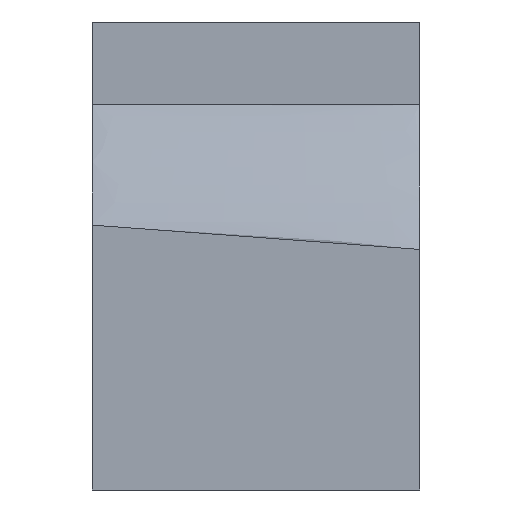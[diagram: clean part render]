
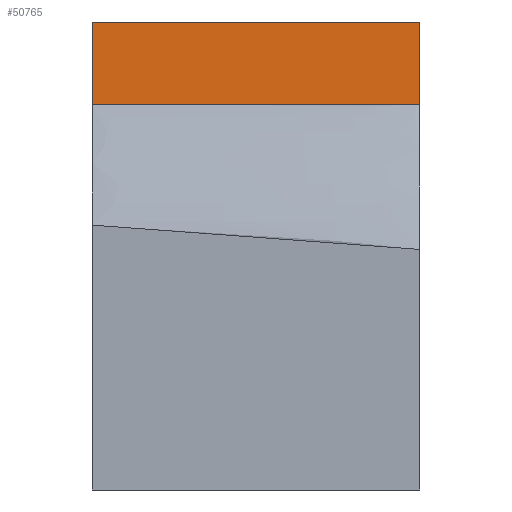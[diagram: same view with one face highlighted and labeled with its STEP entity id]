
A CAD part, front view. The second image highlights one B-rep face of the part: STEP entity #50765.
In plain terms, the highlighted planar face has unit normal (0, -1, 0).
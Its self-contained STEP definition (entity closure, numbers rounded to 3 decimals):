
#32 = PLANE('',#33);
#33 = AXIS2_PLACEMENT_3D('',#34,#35,#36);
#34 = CARTESIAN_POINT('',(30.8,22.2,5.176));
#35 = DIRECTION('',(1.,0.,-0.));
#36 = DIRECTION('',(0.,0.,1.));
#24871 = VERTEX_POINT('',#24872);
#24872 = CARTESIAN_POINT('',(30.8,-4.5,17.186));
#24886 = PLANE('',#24887);
#24887 = AXIS2_PLACEMENT_3D('',#24888,#24889,#24890);
#24888 = CARTESIAN_POINT('',(30.8,-4.5,17.186));
#24889 = DIRECTION('',(0.,0.,1.));
#24890 = DIRECTION('',(1.,0.,-0.));
#24898 = EDGE_CURVE('',#24899,#24871,#24901,.T.);
#24899 = VERTEX_POINT('',#24900);
#24900 = CARTESIAN_POINT('',(30.8,-4.5,15.076));
#24901 = SURFACE_CURVE('',#24902,(#24906,#24913),.PCURVE_S1.);
#24902 = LINE('',#24903,#24904);
#24903 = CARTESIAN_POINT('',(30.8,-4.5,14.976));
#24904 = VECTOR('',#24905,1.);
#24905 = DIRECTION('',(0.,0.,1.));
#24906 = PCURVE('',#32,#24907);
#24907 = DEFINITIONAL_REPRESENTATION('',(#24908),#24912);
#24908 = LINE('',#24909,#24910);
#24909 = CARTESIAN_POINT('',(9.8,26.7));
#24910 = VECTOR('',#24911,1.);
#24911 = DIRECTION('',(1.,0.));
#24912 = ( GEOMETRIC_REPRESENTATION_CONTEXT(2) 
PARAMETRIC_REPRESENTATION_CONTEXT() REPRESENTATION_CONTEXT('2D SPACE',''
  ) );
#24913 = PCURVE('',#24914,#24919);
#24914 = PLANE('',#24915);
#24915 = AXIS2_PLACEMENT_3D('',#24916,#24917,#24918);
#24916 = CARTESIAN_POINT('',(30.8,-4.5,14.976));
#24917 = DIRECTION('',(-0.,1.,0.));
#24918 = DIRECTION('',(0.,0.,1.));
#24919 = DEFINITIONAL_REPRESENTATION('',(#24920),#24924);
#24920 = LINE('',#24921,#24922);
#24921 = CARTESIAN_POINT('',(0.,0.));
#24922 = VECTOR('',#24923,1.);
#24923 = DIRECTION('',(1.,0.));
#24924 = ( GEOMETRIC_REPRESENTATION_CONTEXT(2) 
PARAMETRIC_REPRESENTATION_CONTEXT() REPRESENTATION_CONTEXT('2D SPACE',''
  ) );
#24942 = PLANE('',#24943);
#24943 = AXIS2_PLACEMENT_3D('',#24944,#24945,#24946);
#24944 = CARTESIAN_POINT('',(30.8,22.2,15.076));
#24945 = DIRECTION('',(0.,0.,1.));
#24946 = DIRECTION('',(1.,0.,-0.));
#49829 = PLANE('',#49830);
#49830 = AXIS2_PLACEMENT_3D('',#49831,#49832,#49833);
#49831 = CARTESIAN_POINT('',(39.2,22.2,5.176));
#49832 = DIRECTION('',(1.,0.,-0.));
#49833 = DIRECTION('',(0.,0.,1.));
#50725 = VERTEX_POINT('',#50726);
#50726 = CARTESIAN_POINT('',(39.2,-4.5,15.076));
#50747 = EDGE_CURVE('',#50725,#24899,#50748,.T.);
#50748 = SURFACE_CURVE('',#50749,(#50753,#50759),.PCURVE_S1.);
#50749 = LINE('',#50750,#50751);
#50750 = CARTESIAN_POINT('',(30.8,-4.5,15.076));
#50751 = VECTOR('',#50752,1.);
#50752 = DIRECTION('',(-1.,-0.,0.));
#50753 = PCURVE('',#24942,#50754);
#50754 = DEFINITIONAL_REPRESENTATION('',(#50755),#50758);
#50755 = B_SPLINE_CURVE_WITH_KNOTS('',1,(#50756,#50757),.UNSPECIFIED.,
  .F.,.F.,(2,2),(-8.4,0.),.PIECEWISE_BEZIER_KNOTS.);
#50756 = CARTESIAN_POINT('',(8.4,-26.7));
#50757 = CARTESIAN_POINT('',(0.,-26.7));
#50758 = ( GEOMETRIC_REPRESENTATION_CONTEXT(2) 
PARAMETRIC_REPRESENTATION_CONTEXT() REPRESENTATION_CONTEXT('2D SPACE',''
  ) );
#50759 = PCURVE('',#24914,#50760);
#50760 = DEFINITIONAL_REPRESENTATION('',(#50761),#50764);
#50761 = B_SPLINE_CURVE_WITH_KNOTS('',1,(#50762,#50763),.UNSPECIFIED.,
  .F.,.F.,(2,2),(-8.4,0.),.PIECEWISE_BEZIER_KNOTS.);
#50762 = CARTESIAN_POINT('',(0.1,8.4));
#50763 = CARTESIAN_POINT('',(0.1,0.));
#50764 = ( GEOMETRIC_REPRESENTATION_CONTEXT(2) 
PARAMETRIC_REPRESENTATION_CONTEXT() REPRESENTATION_CONTEXT('2D SPACE',''
  ) );
#50765 = ADVANCED_FACE('',(#50766),#24914,.F.);
#50766 = FACE_BOUND('',#50767,.F.);
#50767 = EDGE_LOOP('',(#50768,#50791,#50792,#50793));
#50768 = ORIENTED_EDGE('',*,*,#50769,.F.);
#50769 = EDGE_CURVE('',#50725,#50770,#50772,.T.);
#50770 = VERTEX_POINT('',#50771);
#50771 = CARTESIAN_POINT('',(39.2,-4.5,17.186));
#50772 = SURFACE_CURVE('',#50773,(#50777,#50784),.PCURVE_S1.);
#50773 = LINE('',#50774,#50775);
#50774 = CARTESIAN_POINT('',(39.2,-4.5,14.976));
#50775 = VECTOR('',#50776,1.);
#50776 = DIRECTION('',(0.,0.,1.));
#50777 = PCURVE('',#24914,#50778);
#50778 = DEFINITIONAL_REPRESENTATION('',(#50779),#50783);
#50779 = LINE('',#50780,#50781);
#50780 = CARTESIAN_POINT('',(0.,8.4));
#50781 = VECTOR('',#50782,1.);
#50782 = DIRECTION('',(1.,0.));
#50783 = ( GEOMETRIC_REPRESENTATION_CONTEXT(2) 
PARAMETRIC_REPRESENTATION_CONTEXT() REPRESENTATION_CONTEXT('2D SPACE',''
  ) );
#50784 = PCURVE('',#49829,#50785);
#50785 = DEFINITIONAL_REPRESENTATION('',(#50786),#50790);
#50786 = LINE('',#50787,#50788);
#50787 = CARTESIAN_POINT('',(9.8,26.7));
#50788 = VECTOR('',#50789,1.);
#50789 = DIRECTION('',(1.,0.));
#50790 = ( GEOMETRIC_REPRESENTATION_CONTEXT(2) 
PARAMETRIC_REPRESENTATION_CONTEXT() REPRESENTATION_CONTEXT('2D SPACE',''
  ) );
#50791 = ORIENTED_EDGE('',*,*,#50747,.T.);
#50792 = ORIENTED_EDGE('',*,*,#24898,.T.);
#50793 = ORIENTED_EDGE('',*,*,#50794,.T.);
#50794 = EDGE_CURVE('',#24871,#50770,#50795,.T.);
#50795 = SURFACE_CURVE('',#50796,(#50800,#50807),.PCURVE_S1.);
#50796 = LINE('',#50797,#50798);
#50797 = CARTESIAN_POINT('',(30.8,-4.5,17.186));
#50798 = VECTOR('',#50799,1.);
#50799 = DIRECTION('',(1.,0.,-0.));
#50800 = PCURVE('',#24914,#50801);
#50801 = DEFINITIONAL_REPRESENTATION('',(#50802),#50806);
#50802 = LINE('',#50803,#50804);
#50803 = CARTESIAN_POINT('',(2.209,0.));
#50804 = VECTOR('',#50805,1.);
#50805 = DIRECTION('',(0.,1.));
#50806 = ( GEOMETRIC_REPRESENTATION_CONTEXT(2) 
PARAMETRIC_REPRESENTATION_CONTEXT() REPRESENTATION_CONTEXT('2D SPACE',''
  ) );
#50807 = PCURVE('',#24886,#50808);
#50808 = DEFINITIONAL_REPRESENTATION('',(#50809),#50813);
#50809 = LINE('',#50810,#50811);
#50810 = CARTESIAN_POINT('',(0.,0.));
#50811 = VECTOR('',#50812,1.);
#50812 = DIRECTION('',(1.,0.));
#50813 = ( GEOMETRIC_REPRESENTATION_CONTEXT(2) 
PARAMETRIC_REPRESENTATION_CONTEXT() REPRESENTATION_CONTEXT('2D SPACE',''
  ) );
